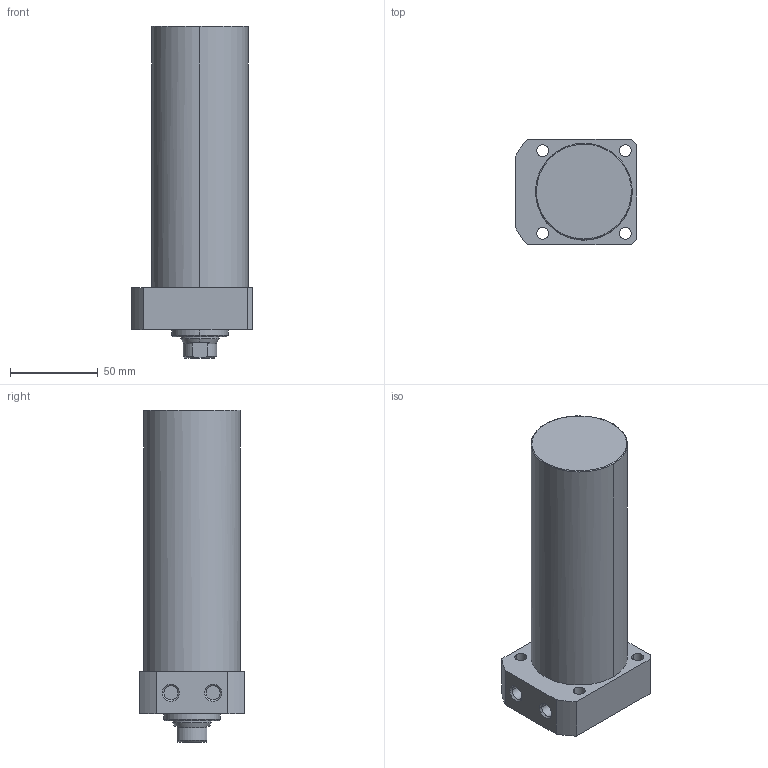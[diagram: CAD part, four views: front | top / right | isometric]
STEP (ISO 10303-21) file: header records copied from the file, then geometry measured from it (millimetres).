
FILE_DESCRIPTION((' '),'2;1');
FILE_NAME( 'TLLR-055CA-120.STEP.stp', '2025-10-24T16:34:43', (' '), ('--- Datakit www.datakit.com---'), ' Datakit CrossCadWare V2024.1 Dec 21 2023', 'Mastercam 2025', ' ');
FILE_SCHEMA(('AUTOMOTIVE_DESIGN { 1 0 10303 214 1 1 1 1 }'));
Length unit declared in the file: millimetre
Products named in the file (1): TLLR-055CA-120
Bounding box: 69 x 60 x 189 mm (x, y, z)
Volume: 451626.1 mm3; surface area: 44032.3 mm2
Topology: 1 solids, 1 shells, 63 faces, 177 edges, 122 vertices
Faces by surface type: cylinder 28, plane 19, cone 14, torus 2
Entity records: 2164 total; most frequent: CARTESIAN_POINT 401, DIRECTION 400, ORIENTED_EDGE 350, EDGE_CURVE 175, AXIS2_PLACEMENT_3D 169, VERTEX_POINT 122, CIRCLE 105, EDGE_LOOP 79
